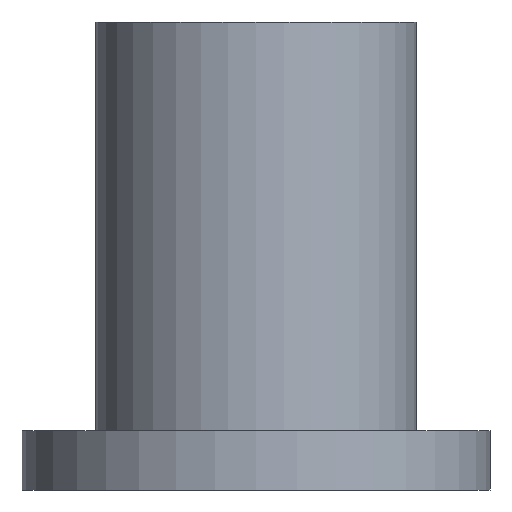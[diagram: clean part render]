
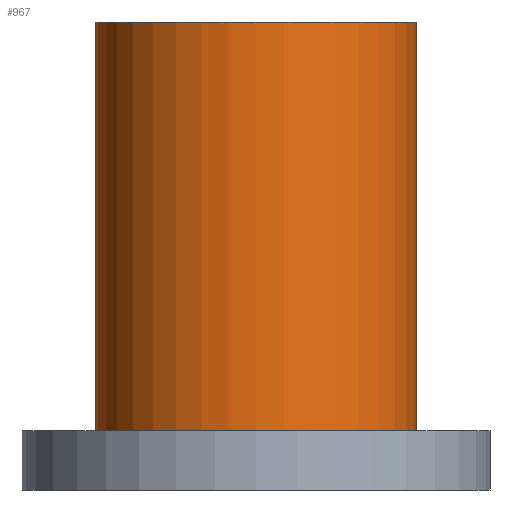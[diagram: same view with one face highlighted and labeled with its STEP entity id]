
A CAD part, front view. The second image highlights one B-rep face of the part: STEP entity #967.
In plain terms, the highlighted cylindrical face has radius 65 mm (diameter 130 mm), a partial arc.
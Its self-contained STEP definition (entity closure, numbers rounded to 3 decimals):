
#129=CARTESIAN_POINT('',(0.,0.,24.));
#130=DIRECTION('',(0.,0.,-1.));
#131=DIRECTION('',(1.,0.,0.));
#132=AXIS2_PLACEMENT_3D('',#129,#130,#131);
#297=DIRECTION('',(0.,0.,-1.));
#298=VECTOR('',#297,166.);
#299=CARTESIAN_POINT('',(-65.,0.,190.));
#300=LINE('',#299,#298);
#301=DIRECTION('',(0.,0.,-1.));
#302=VECTOR('',#301,166.);
#303=CARTESIAN_POINT('',(65.,0.,190.));
#304=LINE('',#303,#302);
#310=CARTESIAN_POINT('',(0.,0.,190.));
#311=DIRECTION('',(0.,0.,1.));
#312=DIRECTION('',(-1.,0.,0.));
#313=AXIS2_PLACEMENT_3D('',#310,#311,#312);
#589=CARTESIAN_POINT('',(65.,0.,190.));
#590=CARTESIAN_POINT('',(65.,0.,24.));
#591=VERTEX_POINT('',#589);
#592=VERTEX_POINT('',#590);
#593=CARTESIAN_POINT('',(-65.,0.,190.));
#594=CARTESIAN_POINT('',(-65.,0.,24.));
#595=VERTEX_POINT('',#593);
#596=VERTEX_POINT('',#594);
#953=CARTESIAN_POINT('',(0.,0.,190.));
#954=DIRECTION('',(0.,0.,-1.));
#955=DIRECTION('',(-1.,0.,0.));
#956=AXIS2_PLACEMENT_3D('',#953,#954,#955);
#957=CYLINDRICAL_SURFACE('',#956,65.);
#958=ORIENTED_EDGE('',*,*,#694,.T.);
#960=ORIENTED_EDGE('',*,*,#959,.F.);
#962=ORIENTED_EDGE('',*,*,#961,.T.);
#964=ORIENTED_EDGE('',*,*,#963,.T.);
#965=EDGE_LOOP('',(#958,#960,#962,#964));
#966=FACE_OUTER_BOUND('',#965,.F.);
#967=ADVANCED_FACE('',(#966),#957,.T.);
#133=CIRCLE('',#132,65.);
#314=CIRCLE('',#313,65.);
#694=EDGE_CURVE('',#592,#596,#133,.T.);
#959=EDGE_CURVE('',#595,#596,#300,.T.);
#961=EDGE_CURVE('',#595,#591,#314,.T.);
#963=EDGE_CURVE('',#591,#592,#304,.T.);
